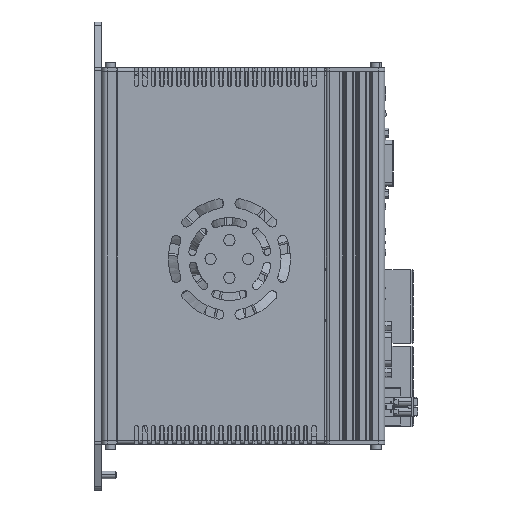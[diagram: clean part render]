
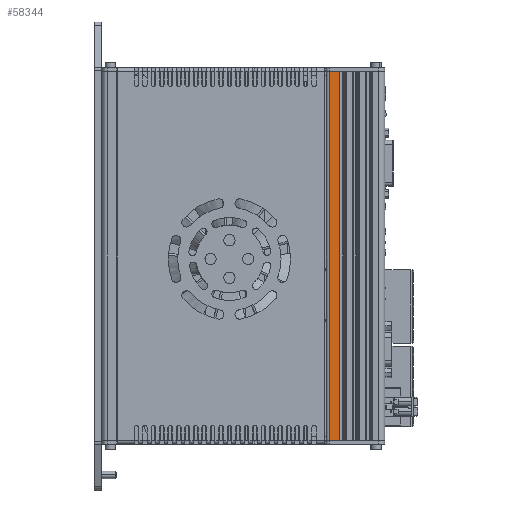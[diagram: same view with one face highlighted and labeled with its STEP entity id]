
A CAD part, front view. The second image highlights one B-rep face of the part: STEP entity #58344.
In plain terms, the highlighted planar face has unit normal (0, -1, 0).
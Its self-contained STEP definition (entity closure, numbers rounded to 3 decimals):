
#42341=DIRECTION('',(0.,0.,-1.));
#42342=VECTOR('',#42341,196.);
#42343=CARTESIAN_POINT('',(121.237,-46.6,0.));
#42344=LINE('',#42343,#42342);
#42805=DIRECTION('',(-1.,0.,0.));
#42806=VECTOR('',#42805,5.194);
#42807=CARTESIAN_POINT('',(126.431,-46.6,0.));
#42808=LINE('',#42807,#42806);
#47406=DIRECTION('',(0.,0.,1.));
#47407=VECTOR('',#47406,196.);
#47408=CARTESIAN_POINT('',(126.431,-46.6,-196.));
#47409=LINE('',#47408,#47407);
#47420=DIRECTION('',(-1.,0.,0.));
#47421=VECTOR('',#47420,5.194);
#47422=CARTESIAN_POINT('',(126.431,-46.6,-196.));
#47423=LINE('',#47422,#47421);
#54415=CARTESIAN_POINT('',(121.237,-46.6,-196.));
#54416=VERTEX_POINT('',#54415);
#54417=CARTESIAN_POINT('',(126.431,-46.6,-196.));
#54418=VERTEX_POINT('',#54417);
#54570=CARTESIAN_POINT('',(121.237,-46.6,0.));
#54571=VERTEX_POINT('',#54570);
#54628=CARTESIAN_POINT('',(126.431,-46.6,0.));
#54629=VERTEX_POINT('',#54628);
#58333=CARTESIAN_POINT('',(75.25,-46.6,0.));
#58334=DIRECTION('',(0.,-1.,0.));
#58335=DIRECTION('',(0.,0.,-1.));
#58336=AXIS2_PLACEMENT_3D('',#58333,#58334,#58335);
#58337=PLANE('',#58336);
#58338=ORIENTED_EDGE('',*,*,#55858,.F.);
#58339=ORIENTED_EDGE('',*,*,#55987,.F.);
#58340=ORIENTED_EDGE('',*,*,#58326,.F.);
#58341=ORIENTED_EDGE('',*,*,#55363,.T.);
#58342=EDGE_LOOP('',(#58338,#58339,#58340,#58341));
#58343=FACE_OUTER_BOUND('',#58342,.F.);
#58344=ADVANCED_FACE('',(#58343),#58337,.T.);
#55363=EDGE_CURVE('',#54418,#54416,#47423,.T.);
#55858=EDGE_CURVE('',#54571,#54416,#42344,.T.);
#55987=EDGE_CURVE('',#54629,#54571,#42808,.T.);
#58326=EDGE_CURVE('',#54418,#54629,#47409,.T.);
